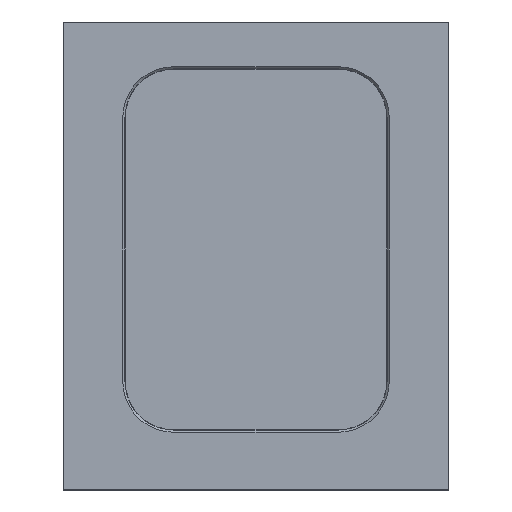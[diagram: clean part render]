
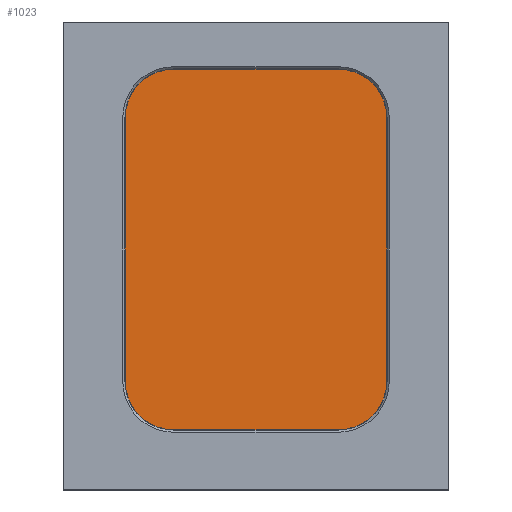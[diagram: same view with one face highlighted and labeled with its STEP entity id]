
A CAD part, top view. The second image highlights one B-rep face of the part: STEP entity #1023.
In plain terms, the highlighted planar face has unit normal (0, 0, 1).
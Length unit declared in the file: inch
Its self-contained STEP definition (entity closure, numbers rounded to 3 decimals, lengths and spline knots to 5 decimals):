
#924=CARTESIAN_POINT('',(-8.97747,9.50811,16.30993));
#925=VERTEX_POINT('',#924);
#934=CARTESIAN_POINT('',(-7.35247,9.50811,16.30993));
#935=VERTEX_POINT('',#934);
#943=CARTESIAN_POINT('',(-7.35247,9.50811,16.30993));
#944=DIRECTION('',(-1.,0.,0.));
#945=VECTOR('',#944,1.625);
#946=LINE('',#943,#945);
#947=EDGE_CURVE('',#935,#925,#946,.T.);
#957=CARTESIAN_POINT('',(-9.45332,9.98397,16.30993));
#958=VERTEX_POINT('',#957);
#959=CARTESIAN_POINT('',(-9.45332,12.58397,16.30993));
#960=VERTEX_POINT('',#959);
#961=CARTESIAN_POINT('',(-9.45332,9.98397,16.30993));
#962=DIRECTION('',(0.,1.,0.));
#963=VECTOR('',#962,2.6);
#964=LINE('',#961,#963);
#965=EDGE_CURVE('',#958,#960,#964,.T.);
#966=ORIENTED_EDGE('',*,*,#965,.F.);
#967=CARTESIAN_POINT('',(-8.97747,9.98397,16.30993));
#968=DIRECTION('',(0.,0.,-1.));
#969=DIRECTION('',(0.,-1.,0.));
#970=AXIS2_PLACEMENT_3D('',#967,#968,#969);
#971=CIRCLE('',#970,0.47586);
#972=EDGE_CURVE('',#925,#958,#971,.T.);
#973=ORIENTED_EDGE('',*,*,#972,.F.);
#974=ORIENTED_EDGE('',*,*,#947,.F.);
#975=CARTESIAN_POINT('',(-6.87661,9.98397,16.30993));
#976=VERTEX_POINT('',#975);
#977=CARTESIAN_POINT('',(-7.35247,9.98397,16.30993));
#978=DIRECTION('',(0.,0.,-1.));
#979=DIRECTION('',(1.,0.,0.));
#980=AXIS2_PLACEMENT_3D('',#977,#978,#979);
#981=CIRCLE('',#980,0.47586);
#982=EDGE_CURVE('',#976,#935,#981,.T.);
#983=ORIENTED_EDGE('',*,*,#982,.F.);
#984=CARTESIAN_POINT('',(-6.87661,12.58397,16.30993));
#985=VERTEX_POINT('',#984);
#986=CARTESIAN_POINT('',(-6.87661,12.58397,16.30993));
#987=DIRECTION('',(0.,-1.,0.));
#988=VECTOR('',#987,2.6);
#989=LINE('',#986,#988);
#990=EDGE_CURVE('',#985,#976,#989,.T.);
#991=ORIENTED_EDGE('',*,*,#990,.F.);
#992=CARTESIAN_POINT('',(-7.35247,13.05982,16.30993));
#993=VERTEX_POINT('',#992);
#994=CARTESIAN_POINT('',(-7.35247,12.58397,16.30993));
#995=DIRECTION('',(0.,0.,-1.));
#996=DIRECTION('',(0.,1.,0.));
#997=AXIS2_PLACEMENT_3D('',#994,#995,#996);
#998=CIRCLE('',#997,0.47586);
#999=EDGE_CURVE('',#993,#985,#998,.T.);
#1000=ORIENTED_EDGE('',*,*,#999,.F.);
#1001=CARTESIAN_POINT('',(-8.97747,13.05982,16.30993));
#1002=VERTEX_POINT('',#1001);
#1003=CARTESIAN_POINT('',(-8.97747,13.05982,16.30993));
#1004=DIRECTION('',(1.,0.,0.));
#1005=VECTOR('',#1004,1.625);
#1006=LINE('',#1003,#1005);
#1007=EDGE_CURVE('',#1002,#993,#1006,.T.);
#1008=ORIENTED_EDGE('',*,*,#1007,.F.);
#1009=CARTESIAN_POINT('',(-8.97747,12.58397,16.30993));
#1010=DIRECTION('',(0.,0.,-1.));
#1011=DIRECTION('',(-1.,0.,0.));
#1012=AXIS2_PLACEMENT_3D('',#1009,#1010,#1011);
#1013=CIRCLE('',#1012,0.47586);
#1014=EDGE_CURVE('',#960,#1002,#1013,.T.);
#1015=ORIENTED_EDGE('',*,*,#1014,.F.);
#1016=EDGE_LOOP('',(#966,#973,#974,#983,#991,#1000,#1008,#1015));
#1017=FACE_OUTER_BOUND('',#1016,.T.);
#1018=CARTESIAN_POINT('',(-8.16497,11.28397,16.30993));
#1019=DIRECTION('',(0.,0.,-1.));
#1020=DIRECTION('',(1.,0.,0.));
#1021=AXIS2_PLACEMENT_3D('',#1018,#1019,#1020);
#1022=PLANE('',#1021);
#1023=ADVANCED_FACE('',(#1017),#1022,.F.);
